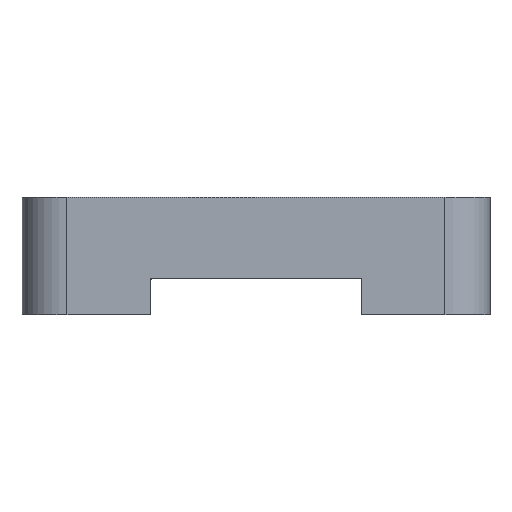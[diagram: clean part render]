
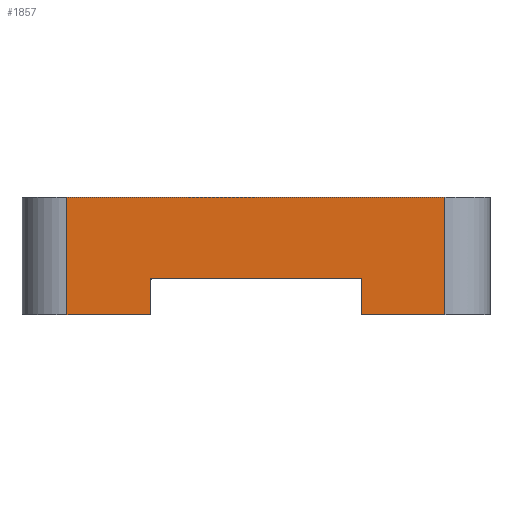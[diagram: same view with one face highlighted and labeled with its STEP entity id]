
A CAD part, left-side view. The second image highlights one B-rep face of the part: STEP entity #1857.
In plain terms, the highlighted planar face has unit normal (-1, 0, 0).
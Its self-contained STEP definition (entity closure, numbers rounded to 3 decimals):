
#75=PLANE('',#2088);
#190=LINE('',#3045,#364);
#214=LINE('',#3113,#388);
#240=LINE('',#3168,#414);
#242=LINE('',#3173,#416);
#243=LINE('',#3176,#417);
#244=LINE('',#3178,#418);
#245=LINE('',#3179,#419);
#246=LINE('',#3180,#420);
#364=VECTOR('',#2478,10.);
#388=VECTOR('',#2534,10.);
#414=VECTOR('',#2582,10.);
#416=VECTOR('',#2588,10.);
#417=VECTOR('',#2591,10.);
#418=VECTOR('',#2592,10.);
#419=VECTOR('',#2593,10.);
#420=VECTOR('',#2594,10.);
#550=FACE_OUTER_BOUND('',#649,.T.);
#649=EDGE_LOOP('',(#1578,#1579,#1580,#1581,#1582,#1583,#1584,#1585));
#884=VERTEX_POINT('',#3042);
#885=VERTEX_POINT('',#3044);
#913=VERTEX_POINT('',#3112);
#930=VERTEX_POINT('',#3165);
#931=VERTEX_POINT('',#3167);
#932=VERTEX_POINT('',#3171);
#933=VERTEX_POINT('',#3175);
#934=VERTEX_POINT('',#3177);
#1111=EDGE_CURVE('',#885,#884,#190,.T.);
#1145=EDGE_CURVE('',#885,#913,#214,.T.);
#1174=EDGE_CURVE('',#931,#930,#240,.T.);
#1177=EDGE_CURVE('',#932,#930,#242,.T.);
#1178=EDGE_CURVE('',#933,#932,#243,.T.);
#1179=EDGE_CURVE('',#934,#933,#244,.T.);
#1180=EDGE_CURVE('',#913,#934,#245,.T.);
#1181=EDGE_CURVE('',#884,#931,#246,.T.);
#1578=ORIENTED_EDGE('',*,*,#1177,.F.);
#1579=ORIENTED_EDGE('',*,*,#1178,.F.);
#1580=ORIENTED_EDGE('',*,*,#1179,.F.);
#1581=ORIENTED_EDGE('',*,*,#1180,.F.);
#1582=ORIENTED_EDGE('',*,*,#1145,.F.);
#1583=ORIENTED_EDGE('',*,*,#1111,.T.);
#1584=ORIENTED_EDGE('',*,*,#1181,.T.);
#1585=ORIENTED_EDGE('',*,*,#1174,.T.);
#1857=ADVANCED_FACE('',(#550),#75,.T.);
#2088=AXIS2_PLACEMENT_3D('',#3174,#2589,#2590);
#2478=DIRECTION('',(0.,0.,-1.));
#2534=DIRECTION('',(0.,-1.,0.));
#2582=DIRECTION('',(0.,0.,1.));
#2588=DIRECTION('',(0.,-1.,0.));
#2589=DIRECTION('center_axis',(-1.,0.,0.));
#2590=DIRECTION('ref_axis',(0.,-1.,0.));
#2591=DIRECTION('',(0.,0.,1.));
#2592=DIRECTION('',(0.,1.,0.));
#2593=DIRECTION('',(0.,0.,-1.));
#2594=DIRECTION('',(0.,1.,0.));
#3042=CARTESIAN_POINT('',(-2.,12.272,9.));
#3044=CARTESIAN_POINT('',(-2.,12.272,13.));
#3045=CARTESIAN_POINT('',(-2.,12.272,4.5));
#3112=CARTESIAN_POINT('',(-2.,3.,13.));
#3113=CARTESIAN_POINT('',(-2.,-2.,13.));
#3165=CARTESIAN_POINT('',(-2.,35.728,13.));
#3167=CARTESIAN_POINT('',(-2.,35.728,9.));
#3168=CARTESIAN_POINT('',(-2.,35.728,4.5));
#3171=CARTESIAN_POINT('',(-2.,45.,13.));
#3173=CARTESIAN_POINT('',(-2.,-2.,13.));
#3174=CARTESIAN_POINT('Origin',(-2.,50.,0.));
#3175=CARTESIAN_POINT('',(-2.,45.,0.));
#3176=CARTESIAN_POINT('',(-2.,45.,0.));
#3177=CARTESIAN_POINT('',(-2.,3.,0.));
#3178=CARTESIAN_POINT('',(-2.,-2.,0.));
#3179=CARTESIAN_POINT('',(-2.,3.,0.));
#3180=CARTESIAN_POINT('',(-2.,43.153,9.));
